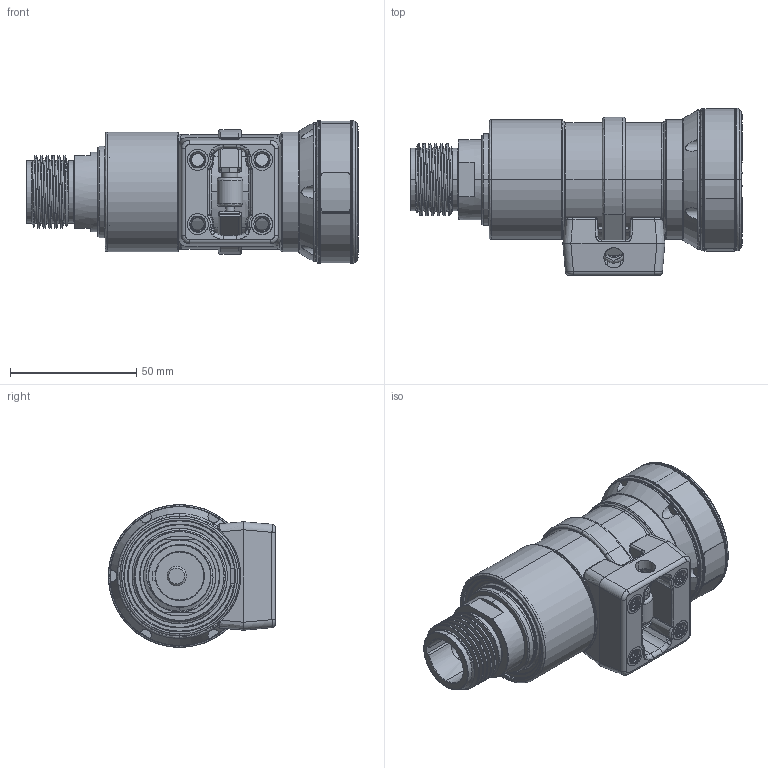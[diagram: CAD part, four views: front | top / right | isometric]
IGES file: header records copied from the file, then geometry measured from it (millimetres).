
Start section: SolidWorks IGES file using analytic representation for surfaces
Global section: file name: S:\3D_Product_Models\Cameras\HDMSC-F-MINL-0B-E-20140710a.IGS; native system: SolidWorks 2014; preprocessor: SolidWorks 2014; author: CJ_Chew; date: 140710.094622; units: inch
Bounding box: 131.27 x 66.13 x 56.39 mm (x, y, z)
Surface area: 44383.8 mm2 (no closed solid volume)
Topology: 0 solids, 0 shells, 564 faces, 9215 edges, 9206 vertices
Faces by surface type: revolution 298, bspline 266
